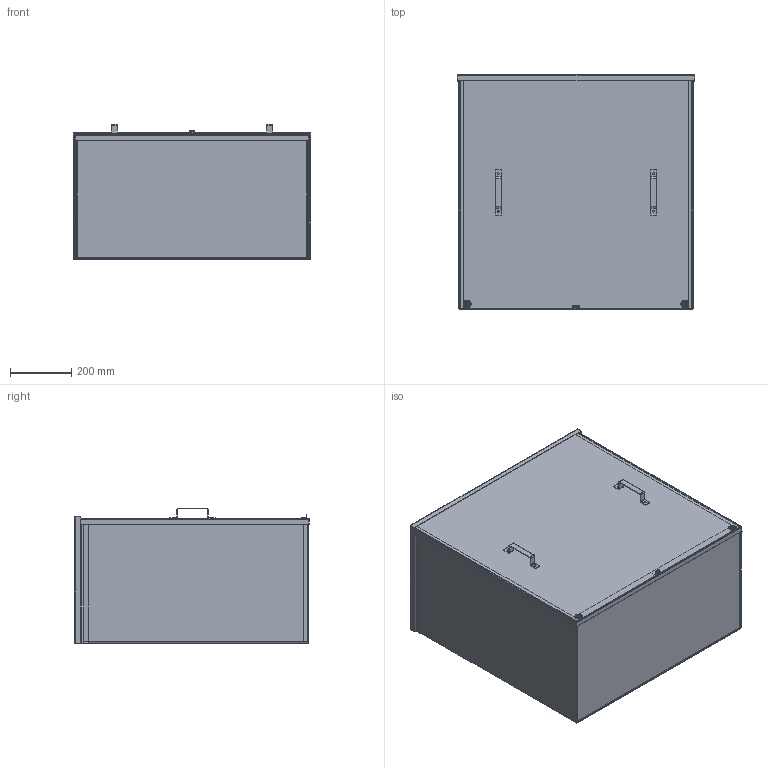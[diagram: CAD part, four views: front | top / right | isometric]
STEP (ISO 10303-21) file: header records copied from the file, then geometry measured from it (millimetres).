
FILE_DESCRIPTION((''),'2;1');
FILE_NAME('D:\scratch\ideas\a30r3016nk.stp','2007-02-01T07:22:41',( 'User'),('SDRC'),'I-DEAS Master Series 9','UNIX','Yes');
FILE_SCHEMA(('AUTOMOTIVE_DESIGN { 1 0 10303 214 0 1 1 1 }'));
Length unit declared in the file: inch
Products named in the file (9): 13806; 3rsc_wmt_body_30x30x16_nk; 3rsc_top_30x16; 3rsc_bottom_30x16_nk; 3rsc_body_30x30x16; assy_cvr_30x30; 79211001; 3rsc_cover_30x30; 78124001
Assembly tree (9 placements, depth 3):
  13806
    3rsc_wmt_body_30x30x16_nk
      3rsc_top_30x16
      3rsc_bottom_30x16_nk
      3rsc_body_30x30x16
    assy_cvr_30x30
      79211001  x2
      3rsc_cover_30x30
    78124001
Bounding box: 775.56 x 767.08 x 443.41 mm (x, y, z)
Volume: 5318211.5 mm3; surface area: 5164064.2 mm2
Topology: 7 solids, 7 shells, 333 faces, 841 edges, 536 vertices
Faces by surface type: bspline 333
Entity records: 9887 total; most frequent: CARTESIAN_POINT 4849, ORIENTED_EDGE 1550, EDGE_CURVE 775, VERTEX_POINT 492, QUASI_UNIFORM_CURVE 368, EDGE_LOOP 363, FACE_OUTER_BOUND 309, ADVANCED_FACE 309
